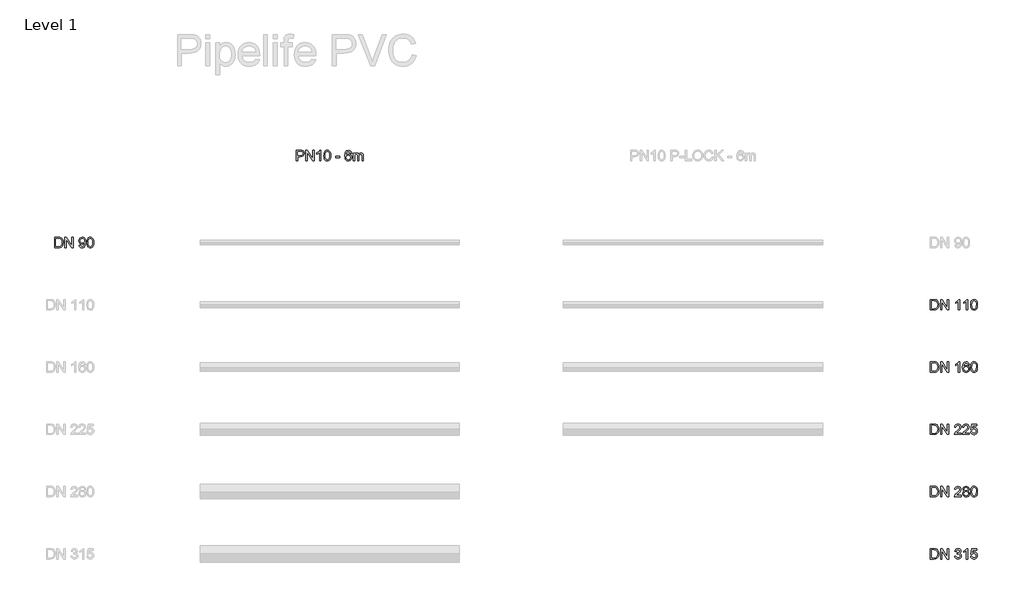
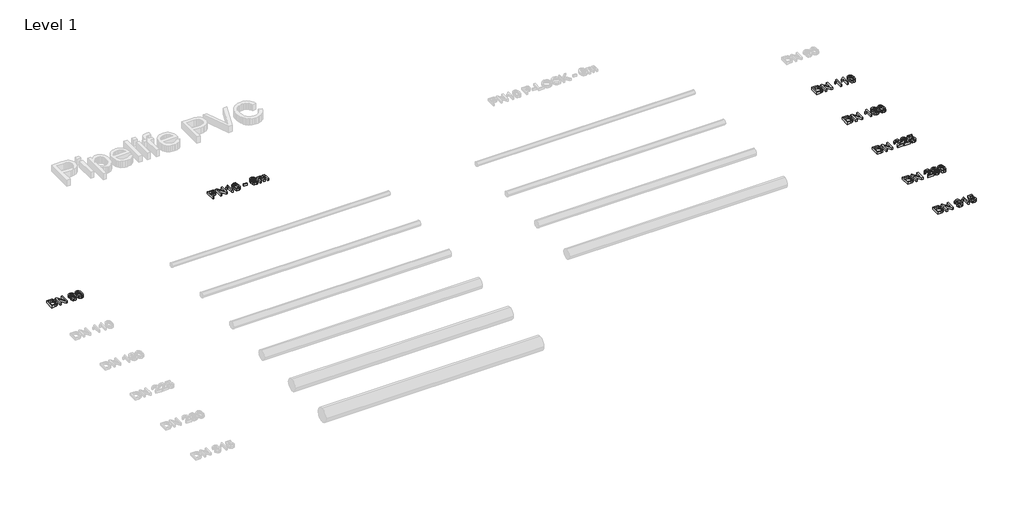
# One storey, part 2 of 3: 7 proxies.
"""IFC4 building model written with IfcOpenShell, lengths in millimetres."""

from ifc_helpers import new_model, si_unit, origin, origin_with_axes, place, context, project, spatial, polyline, outline, extrude, element, save

model = new_model("IFC4")

# Units and contexts
model_context = context("Model", 3, world=origin())
ifc_project = project(units=[si_unit("LENGTHUNIT", "METRE", prefix="MILLI")], contexts=[model_context])

# Site, building, storey
site = spatial("IfcSite", under=ifc_project)
building = spatial("IfcBuilding", under=site)
storey = spatial("IfcBuildingStorey", under=building, Name="Level 1", Elevation=0.0)

# Proxies
placement = place(None, origin())
element("IfcBuildingElementProxy", 1, Name="200mm Arial", ObjectType="200mm Arial", at=placement, inside=storey, context=model_context, shape_type="SweptSolid", body=[
    extrude(outline(polyline([(-14676.2153621, 2161.9491293), (-14676.2153621, 2362.8617496), (-14601.7560463, 2362.8617496), (-14571.7368755, 2360.9487633), (-14547.3340365, 2351.5555097), (-14538.461949, 2343.2291138), (-14531.5151107, 2332.1313403), (-14527.0269503, 2319.0408726), (-14525.5308969, 2304.7363944), (-14529.5714675, 2281.0570566), (-14541.6931792, 2261.326319), (-14551.4006654, 2253.5578775), (-14564.3608415, 2248.0089907), (-14600.0392636, 2243.5698813), (-14651.1012846, 2243.5698813), (-14651.1012846, 2161.9491293), (-14676.2153621, 2161.9491293)]), holes=[polyline([(-14651.1012846, 2268.6839589), (-14598.5677357, 2268.6839589), (-14576.2986122, 2270.9893527), (-14561.5833324, 2277.9055342), (-14553.3795639, 2289.0033077), (-14550.6449744, 2303.8534776), (-14552.2575238, 2315.1351921), (-14557.0951721, 2324.6510731), (-14564.5570452, 2331.8125092), (-14574.0422693, 2336.0308895), (-14599.1563469, 2337.7476721), (-14651.1012846, 2337.7476721), (-14651.1012846, 2268.6839589)])]), origin_with_axes(), (0.0, 0.0, 1.0), 50.0),
    extrude(outline(polyline([(-14490.9990403, 2161.9491293), (-14490.9990403, 2362.8617496), (-14464.1191292, 2362.8617496), (-14359.1501332, 2203.6914731), (-14359.1501332, 2362.8617496), (-14334.0360557, 2362.8617496), (-14334.0360557, 2161.9491293), (-14360.9159668, 2161.9491293), (-14465.8849627, 2321.1684569), (-14465.8849627, 2161.9491293), (-14490.9990403, 2161.9491293)])), origin_with_axes(), (0.0, 0.0, 1.0), 50.0),
    extrude(outline(polyline([(-14205.3264083, 2161.9491293), (-14230.4404858, 2161.9491293), (-14230.4404858, 2318.5197065), (-14254.2301882, 2301.5726092), (-14280.6686409, 2288.8929431), (-14280.6686409, 2312.6335946), (-14243.8559159, 2336.1289913), (-14230.3853035, 2349.7038369), (-14221.5132161, 2362.8617496), (-14205.3264083, 2362.8617496), (-14205.3264083, 2161.9491293)])), origin_with_axes(), (0.0, 0.0, 1.0), 50.0),
    extrude(outline(polyline([(-14145.6804741, 2260.7867587), (-14143.8349328, 2292.9457765), (-14138.2983088, 2318.5932829), (-14129.1257844, 2338.1216855), (-14116.3725419, 2351.9233917), (-14099.9466108, 2360.1271601), (-14079.7560206, 2362.8617496), (-14064.2804513, 2361.2430689), (-14050.4235628, 2356.3870265), (-14038.83528, 2348.483695), (-14030.1655276, 2337.7231466), (-14018.3933038, 2307.9982814), (-14013.8315671, 2260.7867587), (-14015.6587143, 2228.811682), (-14021.140156, 2203.2254892), (-14030.2574981, 2183.6786925), (-14042.9923465, 2169.821804), (-14059.4550658, 2161.5628532), (-14079.7560206, 2158.8098696), (-14105.8511168, 2163.5923356), (-14125.6676936, 2177.9397334), (-14134.4232851, 2193.0688805), (-14140.677279, 2211.919767), (-14145.6804741, 2260.7867587)]), holes=[polyline([(-14120.5663966, 2260.8358096), (-14117.6233406, 2221.3314147), (-14108.7941728, 2198.4675487), (-14095.6485228, 2187.5598476), (-14079.7560206, 2183.9239472), (-14063.8635184, 2187.5721103), (-14050.7178684, 2198.5165997), (-14041.8887006, 2221.3927284), (-14038.9456446, 2260.8358096), (-14041.7905987, 2299.4511564), (-14050.325461, 2322.492832), (-14063.4465855, 2333.9339621), (-14080.0503262, 2337.7476721), (-14095.7711501, 2334.3876832), (-14108.4017653, 2324.3077165), (-14117.5252388, 2299.8313011), (-14120.5663966, 2260.8358096)])]), origin_with_axes(), (0.0, 0.0, 1.0), 50.0),
    extrude(outline(polyline([(-13919.6537763, 2221.5950635), (-13919.6537763, 2246.709141), (-13841.172284, 2246.709141), (-13841.172284, 2221.5950635), (-13919.6537763, 2221.5950635)])), origin_with_axes(), (0.0, 0.0, 1.0), 50.0),
    extrude(outline(polyline([(-13612.0063265, 2309.4943349), (-13637.120404, 2306.3550752), (-13646.6362849, 2327.2998234), (-13658.0283641, 2335.1357099), (-13671.7994134, 2337.7476721), (-13694.4609443, 2331.6653565), (-13703.8971175, 2322.057505), (-13711.6042453, 2308.8321473), (-13716.8097755, 2290.1253478), (-13718.741156, 2264.0731712), (-13708.6673207, 2275.8270009), (-13696.5946599, 2284.1104772), (-13683.1976239, 2289.0217018), (-13669.150663, 2290.6587767), (-13645.9495719, 2286.1828791), (-13626.4763516, 2272.7551863), (-13613.269388, 2252.2396337), (-13608.8670668, 2226.5001568), (-13610.9394687, 2208.5168586), (-13617.1566744, 2191.8456728), (-13627.0036491, 2177.7067415), (-13639.9653581, 2167.3202065), (-13655.4531901, 2160.9374539), (-13672.8785339, 2158.8098696), (-13701.3709945, 2164.4507269), (-13724.0631822, 2181.3732987), (-13732.7222047, 2194.4821604), (-13738.9072207, 2211.2453167), (-13743.8552335, 2255.7345126), (-13738.3615291, 2305.7542013), (-13731.4943985, 2324.8319484), (-13721.8804157, 2339.9549641), (-13711.4601582, 2349.9766828), (-13699.3783003, 2357.1350532), (-13670.2297836, 2362.8617496), (-13648.1936521, 2359.3178198), (-13630.547579, 2348.6860301), (-13618.186744, 2331.8002465), (-13612.0063265, 2309.4943349)]), holes=[polyline([(-13718.741156, 2226.8925642), (-13712.9286205, 2205.1384756), (-13697.4775767, 2189.3440752), (-13674.8405712, 2183.9239472), (-13658.2674874, 2186.7321131), (-13645.2383334, 2195.1566108), (-13636.7954416, 2208.4003626), (-13633.9811443, 2225.6662909), (-13636.7586534, 2242.2393748), (-13645.0911806, 2254.8761213), (-13658.3410638, 2262.8775547), (-13675.8706408, 2265.5446992), (-13692.4191992, 2262.8775547), (-13706.2576936, 2254.8761213), (-13715.6202904, 2242.5459431), (-13718.741156, 2226.8925642)])]), origin_with_axes(), (0.0, 0.0, 1.0), 50.0),
    extrude(outline(polyline([(-13580.6137295, 2161.9491293), (-13580.6137295, 2309.4943349), (-13555.499652, 2309.4943349), (-13555.499652, 2285.2141232), (-13547.9458084, 2296.367079), (-13538.2337237, 2305.1042764), (-13526.6944918, 2310.751265), (-13513.6592064, 2312.6335946), (-13499.6919533, 2310.7144768), (-13488.496078, 2304.9571236), (-13480.1328939, 2295.7416796), (-13474.6637149, 2283.4482896), (-13465.5095846, 2296.2168605), (-13455.0678673, 2305.3372683), (-13443.338563, 2310.809513), (-13430.3216718, 2312.6335946), (-13411.4431941, 2309.5985681), (-13397.4820723, 2300.4934887), (-13388.8552396, 2285.0731018), (-13385.9796286, 2263.0921525), (-13385.9796286, 2161.9491293), (-13411.0937062, 2161.9491293), (-13411.0937062, 2252.3009474), (-13413.4236255, 2273.2702211), (-13421.8603859, 2283.5954424), (-13436.2077837, 2287.519517), (-13449.8132862, 2285.0056567), (-13460.9049283, 2277.4640758), (-13468.2809623, 2264.3797395), (-13470.7396403, 2245.237613), (-13470.7396403, 2161.9491293), (-13495.8537179, 2161.9491293), (-13495.8537179, 2255.0968505), (-13497.3068517, 2269.2970955), (-13501.6662534, 2279.4261131), (-13509.336593, 2285.4961661), (-13520.7225407, 2287.519517), (-13539.3128442, 2282.1239144), (-13546.6704841, 2275.4775131), (-13551.6736793, 2266.3295141), (-13555.499652, 2236.3593942), (-13555.499652, 2161.9491293), (-13580.6137295, 2161.9491293)])), origin_with_axes(), (0.0, 0.0, 1.0), 50.0),
])
element("IfcBuildingElementProxy", 2, Name="200mm Arial", ObjectType="200mm Arial", at=placement, inside=storey, context=model_context, shape_type="SweptSolid", body=[
    extrude(outline(polyline([(-2460.6923074, -1913.949573), (-2460.6923074, -1713.0369527), (-2391.3833395, -1713.0369527), (-2355.5271077, -1715.9309577), (-2339.5119782, -1721.5105013), (-2325.9984462, -1730.302881), (-2312.1047695, -1745.606772), (-2302.2087438, -1764.6385338), (-2296.2858437, -1787.0302846), (-2294.3115437, -1812.4141423), (-2299.6580953, -1852.9547382), (-2313.3923565, -1882.2136195), (-2331.7374053, -1900.436041), (-2355.7478369, -1910.5160077), (-2388.0478761, -1913.949573), (-2460.6923074, -1913.949573)]), holes=[polyline([(-2435.5782298, -1888.8354954), (-2391.1380848, -1888.8354954), (-2358.8135202, -1885.2057264), (-2340.1741658, -1874.9540815), (-2331.4492311, -1864.0831685), (-2324.8948002, -1850.0116822), (-2320.792916, -1832.6783089), (-2319.4256212, -1812.0217348), (-2322.1050284, -1784.6513144), (-2330.14325, -1764.4423301), (-2342.0197071, -1750.5609162), (-2356.2138207, -1742.1732067), (-2391.8247979, -1738.1510302), (-2435.5782298, -1738.1510302), (-2435.5782298, -1888.8354954)])]), origin_with_axes(), (0.0, 0.0, 1.0), 50.0),
    extrude(outline(polyline([(-2259.7796871, -1913.949573), (-2259.7796871, -1713.0369527), (-2232.899776, -1713.0369527), (-2127.93078, -1872.2072292), (-2127.93078, -1713.0369527), (-2102.8167025, -1713.0369527), (-2102.8167025, -1913.949573), (-2129.6966136, -1913.949573), (-2234.6656095, -1754.7302454), (-2234.6656095, -1913.949573), (-2259.7796871, -1913.949573)])), origin_with_axes(), (0.0, 0.0, 1.0), 50.0),
    extrude(outline(polyline([(-1895.6255628, -1913.949573), (-1920.7396403, -1913.949573), (-1920.7396403, -1757.3789958), (-1944.5293427, -1774.3260931), (-1970.9677954, -1787.0057592), (-1970.9677954, -1763.2651077), (-1934.1550704, -1739.769711), (-1920.684458, -1726.1948653), (-1911.8123706, -1713.0369527), (-1895.6255628, -1713.0369527), (-1895.6255628, -1913.949573)])), origin_with_axes(), (0.0, 0.0, 1.0), 50.0),
    extrude(outline(polyline([(-1707.2699812, -1766.4043674), (-1732.3840588, -1769.5436271), (-1741.8999397, -1748.5988789), (-1753.2920188, -1740.7629924), (-1767.0630682, -1738.1510302), (-1789.7245991, -1744.2333458), (-1799.1607723, -1753.8411973), (-1806.8679001, -1767.066555), (-1812.0734303, -1785.7733545), (-1814.0048108, -1811.8255311), (-1803.9309755, -1800.0717013), (-1791.8583147, -1791.7882251), (-1778.4612787, -1786.8770005), (-1764.4143178, -1785.2399256), (-1741.2132267, -1789.7158232), (-1721.7400064, -1803.143516), (-1708.5330428, -1823.6590686), (-1704.1307216, -1849.3985455), (-1706.2031235, -1867.3818437), (-1712.4203292, -1884.0530295), (-1722.2673039, -1898.1919608), (-1735.2290129, -1908.5784958), (-1750.7168449, -1914.9612484), (-1768.1421887, -1917.0888326), (-1796.6346492, -1911.4479754), (-1819.326837, -1894.5254036), (-1827.9858594, -1881.4165418), (-1834.1708755, -1864.6533856), (-1839.1188883, -1820.1641897), (-1833.6251839, -1770.144501), (-1826.7580533, -1751.0667539), (-1817.1440705, -1735.9437382), (-1806.723813, -1725.9220195), (-1794.6419551, -1718.763649), (-1765.4934384, -1713.0369527), (-1743.4573068, -1716.5808825), (-1725.8112338, -1727.2126722), (-1713.4503988, -1744.0984558), (-1707.2699812, -1766.4043674)]), holes=[polyline([(-1814.0048108, -1849.0061381), (-1808.1922753, -1870.7602267), (-1792.7412315, -1886.554627), (-1770.104226, -1891.9747551), (-1753.5311421, -1889.1665892), (-1740.5019881, -1880.7420915), (-1732.0590964, -1867.4983397), (-1729.2447991, -1850.2324114), (-1732.0223082, -1833.6593275), (-1740.3548353, -1821.022581), (-1753.6047185, -1813.0211476), (-1771.1342956, -1810.3540031), (-1787.682854, -1813.0211476), (-1801.5213484, -1821.022581), (-1810.8839452, -1833.3527592), (-1814.0048108, -1849.0061381)])]), origin_with_axes(), (0.0, 0.0, 1.0), 50.0),
    extrude(outline(polyline([(-1682.1559037, -1815.1119436), (-1680.3103624, -1782.9529258), (-1674.7737383, -1757.3054194), (-1665.6012139, -1737.7770168), (-1652.8479714, -1723.9753106), (-1636.4220403, -1715.7715422), (-1616.2314502, -1713.0369527), (-1600.7558809, -1714.6556334), (-1586.8989924, -1719.5116758), (-1575.3107096, -1727.4150073), (-1566.6409572, -1738.1755557), (-1554.8687334, -1767.9004209), (-1550.3069966, -1815.1119436), (-1552.1341439, -1847.0870203), (-1557.6155856, -1872.6732131), (-1566.7329277, -1892.2200098), (-1579.4677761, -1906.0768983), (-1595.9304954, -1914.335849), (-1616.2314502, -1917.0888326), (-1642.3265464, -1912.3063667), (-1662.1431232, -1897.9589689), (-1670.8987147, -1882.8298218), (-1677.1527086, -1863.9789353), (-1682.1559037, -1815.1119436)]), holes=[polyline([(-1657.0418262, -1815.0628927), (-1654.0987702, -1854.5672876), (-1645.2696023, -1877.4311536), (-1632.1239524, -1888.3388547), (-1616.2314502, -1891.9747551), (-1600.338948, -1888.326592), (-1587.193298, -1877.3821026), (-1578.3641301, -1854.5059739), (-1575.4210742, -1815.0628927), (-1578.2660283, -1776.4475459), (-1586.8008906, -1753.4058703), (-1599.9220151, -1741.9647402), (-1616.5257558, -1738.1510302), (-1632.2465797, -1741.5110191), (-1644.8771949, -1751.5909857), (-1654.0006683, -1776.0674012), (-1657.0418262, -1815.0628927)])]), origin_with_axes(), (0.0, 0.0, 1.0), 50.0),
])
element("IfcBuildingElementProxy", 3, Name="200mm Arial", ObjectType="200mm Arial", at=placement, inside=storey, context=model_context, shape_type="SweptSolid", body=[
    extrude(outline(polyline([(-2460.6923074, -3113.949573), (-2460.6923074, -2913.0369527), (-2391.3833395, -2913.0369527), (-2355.5271077, -2915.9309577), (-2339.5119782, -2921.5105013), (-2325.9984462, -2930.302881), (-2312.1047695, -2945.606772), (-2302.2087438, -2964.6385338), (-2296.2858437, -2987.0302846), (-2294.3115437, -3012.4141423), (-2299.6580953, -3052.9547382), (-2313.3923565, -3082.2136195), (-2331.7374053, -3100.436041), (-2355.7478369, -3110.5160077), (-2388.0478761, -3113.949573), (-2460.6923074, -3113.949573)]), holes=[polyline([(-2435.5782298, -3088.8354954), (-2391.1380848, -3088.8354954), (-2358.8135202, -3085.2057264), (-2340.1741658, -3074.9540815), (-2331.4492311, -3064.0831685), (-2324.8948002, -3050.0116822), (-2320.792916, -3032.6783089), (-2319.4256212, -3012.0217348), (-2322.1050284, -2984.6513144), (-2330.14325, -2964.4423301), (-2342.0197071, -2950.5609162), (-2356.2138207, -2942.1732067), (-2391.8247979, -2938.1510302), (-2435.5782298, -2938.1510302), (-2435.5782298, -3088.8354954)])]), origin_with_axes(), (0.0, 0.0, 1.0), 50.0),
    extrude(outline(polyline([(-2259.7796871, -3113.949573), (-2259.7796871, -2913.0369527), (-2232.899776, -2913.0369527), (-2127.93078, -3072.2072292), (-2127.93078, -2913.0369527), (-2102.8167025, -2913.0369527), (-2102.8167025, -3113.949573), (-2129.6966136, -3113.949573), (-2234.6656095, -2954.7302454), (-2234.6656095, -3113.949573), (-2259.7796871, -3113.949573)])), origin_with_axes(), (0.0, 0.0, 1.0), 50.0),
    extrude(outline(polyline([(-1861.0937062, -3088.8354954), (-1861.0937062, -3113.949573), (-1992.9426132, -3113.949573), (-1990.2448119, -3096.6345937), (-1974.9899719, -3069.9754118), (-1943.548324, -3040.8636832), (-1900.1872995, -2999.0232377), (-1892.0571074, -2984.6022634), (-1889.3470434, -2970.5736967), (-1891.9038233, -2957.9982638), (-1899.5741629, -2947.5442838), (-1911.3647808, -2940.4993436), (-1926.2823957, -2938.1510302), (-1941.9480373, -2940.4441613), (-1954.1188, -2947.3235546), (-1961.9730806, -2958.2496499), (-1964.689276, -2972.6828868), (-1989.8033535, -2969.5436271), (-1983.7149065, -2945.2511527), (-1970.5508625, -2927.5069778), (-1950.9979344, -2916.6544589), (-1925.7428355, -2913.0369527), (-1900.3037955, -2917.0591291), (-1880.7876556, -2929.1256586), (-1868.3716383, -2947.1518763), (-1864.2329659, -2969.0531178), (-1868.6966007, -2992.8673456), (-1883.5345079, -3017.4909138), (-1919.513367, -3051.9001431), (-1948.4043664, -3076.0577275), (-1959.7351318, -3088.8354954), (-1861.0937062, -3088.8354954)])), origin_with_axes(), (0.0, 0.0, 1.0), 50.0),
    extrude(outline(polyline([(-1707.2699812, -3088.8354954), (-1707.2699812, -3113.949573), (-1839.1188883, -3113.949573), (-1836.421087, -3096.6345937), (-1821.166247, -3069.9754118), (-1789.7245991, -3040.8636832), (-1746.3635746, -2999.0232377), (-1738.2333825, -2984.6022634), (-1735.5233185, -2970.5736967), (-1738.0800983, -2957.9982638), (-1745.7504379, -2947.5442838), (-1757.5410559, -2940.4993436), (-1772.4586708, -2938.1510302), (-1788.1243124, -2940.4441613), (-1800.2950751, -2947.3235546), (-1808.1493557, -2958.2496499), (-1810.8655511, -2972.6828868), (-1835.9796286, -2969.5436271), (-1829.8911816, -2945.2511527), (-1816.7271375, -2927.5069778), (-1797.1742095, -2916.6544589), (-1771.9191105, -2913.0369527), (-1746.4800706, -2917.0591291), (-1726.9639307, -2929.1256586), (-1714.5479134, -2947.1518763), (-1710.4092409, -2969.0531178), (-1714.8728758, -2992.8673456), (-1729.710783, -3017.4909138), (-1765.6896421, -3051.9001431), (-1794.5806414, -3076.0577275), (-1805.9114069, -3088.8354954), (-1707.2699812, -3088.8354954)])), origin_with_axes(), (0.0, 0.0, 1.0), 50.0),
    extrude(outline(polyline([(-1682.1559037, -3060.5821582), (-1657.0418262, -3057.4428985), (-1652.4310385, -3072.5199289), (-1644.3866855, -3083.3172655), (-1632.9455555, -3089.8103827), (-1618.1444366, -3091.9747551), (-1600.1427443, -3088.9642541), (-1586.6537378, -3079.9327511), (-1578.2292401, -3065.9225785), (-1575.4210742, -3047.9760685), (-1578.0514304, -3031.0780222), (-1585.9424992, -3018.1531014), (-1599.1555942, -3009.9493329), (-1617.7520291, -3007.2147434), (-1639.8004233, -3011.5802764), (-1653.9025665, -3022.9110419), (-1679.016644, -3019.7717822), (-1657.0418262, -2916.1762123), (-1559.7247757, -2916.1762123), (-1559.7247757, -2941.2902899), (-1636.73474, -2941.2902899), (-1647.4768943, -2996.619742), (-1629.5365157, -2985.7304349), (-1610.7377457, -2982.1006659), (-1587.2730058, -2986.601089), (-1567.7936541, -3000.1023582), (-1554.678661, -3020.6792244), (-1550.3069966, -3046.4064386), (-1554.243334, -3071.5205162), (-1566.052346, -3093.0048247), (-1576.487932, -3103.5415782), (-1588.664826, -3111.0678307), (-1602.5830282, -3115.5835821), (-1618.2425384, -3117.0888326), (-1642.9090262, -3113.2199403), (-1662.5600561, -3101.6132634), (-1676.0306685, -3083.6177025), (-1682.1559037, -3060.5821582)])), origin_with_axes(), (0.0, 0.0, 1.0), 50.0),
])
element("IfcBuildingElementProxy", 4, Name="200mm Arial", ObjectType="200mm Arial", at=placement, inside=storey, context=model_context, shape_type="SweptSolid", body=[
    extrude(outline(polyline([(-2460.6923074, -4313.949573), (-2460.6923074, -4113.0369527), (-2391.3833395, -4113.0369527), (-2355.5271077, -4115.9309577), (-2339.5119782, -4121.5105013), (-2325.9984462, -4130.302881), (-2312.1047695, -4145.606772), (-2302.2087438, -4164.6385338), (-2296.2858437, -4187.0302846), (-2294.3115437, -4212.4141423), (-2299.6580953, -4252.9547382), (-2313.3923565, -4282.2136195), (-2331.7374053, -4300.436041), (-2355.7478369, -4310.5160077), (-2388.0478761, -4313.949573), (-2460.6923074, -4313.949573)]), holes=[polyline([(-2435.5782298, -4288.8354954), (-2391.1380848, -4288.8354954), (-2358.8135202, -4285.2057264), (-2340.1741658, -4274.9540815), (-2331.4492311, -4264.0831685), (-2324.8948002, -4250.0116822), (-2320.792916, -4232.6783089), (-2319.4256212, -4212.0217348), (-2322.1050284, -4184.6513144), (-2330.14325, -4164.4423301), (-2342.0197071, -4150.5609162), (-2356.2138207, -4142.1732067), (-2391.8247979, -4138.1510302), (-2435.5782298, -4138.1510302), (-2435.5782298, -4288.8354954)])]), origin_with_axes(), (0.0, 0.0, 1.0), 50.0),
    extrude(outline(polyline([(-2259.7796871, -4313.949573), (-2259.7796871, -4113.0369527), (-2232.899776, -4113.0369527), (-2127.93078, -4272.2072292), (-2127.93078, -4113.0369527), (-2102.8167025, -4113.0369527), (-2102.8167025, -4313.949573), (-2129.6966136, -4313.949573), (-2234.6656095, -4154.7302454), (-2234.6656095, -4313.949573), (-2259.7796871, -4313.949573)])), origin_with_axes(), (0.0, 0.0, 1.0), 50.0),
    extrude(outline(polyline([(-1861.0937062, -4288.8354954), (-1861.0937062, -4313.949573), (-1992.9426132, -4313.949573), (-1990.2448119, -4296.6345937), (-1974.9899719, -4269.9754118), (-1943.548324, -4240.8636832), (-1900.1872995, -4199.0232377), (-1892.0571074, -4184.6022634), (-1889.3470434, -4170.5736967), (-1891.9038233, -4157.9982638), (-1899.5741629, -4147.5442838), (-1911.3647808, -4140.4993436), (-1926.2823957, -4138.1510302), (-1941.9480373, -4140.4441613), (-1954.1188, -4147.3235546), (-1961.9730806, -4158.2496499), (-1964.689276, -4172.6828868), (-1989.8033535, -4169.5436271), (-1983.7149065, -4145.2511527), (-1970.5508625, -4127.5069778), (-1950.9979344, -4116.6544589), (-1925.7428355, -4113.0369527), (-1900.3037955, -4117.0591291), (-1880.7876556, -4129.1256586), (-1868.3716383, -4147.1518763), (-1864.2329659, -4169.0531178), (-1868.6966007, -4192.8673456), (-1883.5345079, -4217.4909138), (-1919.513367, -4251.9001431), (-1948.4043664, -4276.0577275), (-1959.7351318, -4288.8354954), (-1861.0937062, -4288.8354954)])), origin_with_axes(), (0.0, 0.0, 1.0), 50.0),
    extrude(outline(polyline([(-1799.3876328, -4203.2906688), (-1812.8337198, -4196.6687929), (-1822.2698929, -4187.6924722), (-1827.8433052, -4176.5456478), (-1829.7011092, -4163.4122605), (-1825.6544073, -4143.7796247), (-1813.5143015, -4127.5560287), (-1794.6419551, -4116.6667217), (-1770.3985316, -4113.0369527), (-1746.0079553, -4116.7525608), (-1726.8903543, -4127.8993853), (-1714.5295193, -4144.3804986), (-1710.4092409, -4164.0989736), (-1712.2425196, -4176.8092965), (-1717.7423554, -4187.7660486), (-1726.9700621, -4196.687187), (-1739.9869534, -4203.2906688), (-1724.5297782, -4211.255314), (-1713.2787205, -4222.9846183), (-1706.4177213, -4237.9144959), (-1704.1307216, -4255.4808612), (-1708.6679328, -4279.4912927), (-1722.2795667, -4299.332395), (-1743.2978913, -4312.6497232), (-1770.0551751, -4317.0888326), (-1796.8124589, -4312.6313291), (-1817.8307835, -4299.2588186), (-1831.4424174, -4279.227644), (-1835.9796286, -4254.7941481), (-1833.6006584, -4236.5472012), (-1826.4637477, -4221.5376158), (-1814.9367785, -4210.2804267), (-1799.3876328, -4203.2906688)]), holes=[polyline([(-1810.8655511, -4253.9112313), (-1806.6716963, -4272.8203659), (-1800.8652922, -4280.9321639), (-1791.8337892, -4286.97156), (-1769.8589714, -4291.9747551), (-1752.7647213, -4289.3443988), (-1739.9379024, -4281.45333), (-1731.9180749, -4269.5032966), (-1729.2447991, -4254.6960463), (-1732.0039141, -4239.6374099), (-1740.2812589, -4227.4237277), (-1753.4023834, -4219.3303238), (-1770.6928372, -4216.6325225), (-1787.547964, -4219.2935356), (-1800.2460242, -4227.2765749), (-1808.2106694, -4239.2572652), (-1810.8655511, -4253.9112313)]), polyline([(-1804.5870317, -4164.1480245), (-1802.3613456, -4175.110908), (-1795.6842874, -4183.8664995), (-1784.7520608, -4189.6054586), (-1769.7608695, -4191.518445), (-1755.1191661, -4189.6177213), (-1744.3524864, -4183.9155504), (-1737.7306104, -4175.4542645), (-1735.5233185, -4165.276196), (-1737.8041868, -4154.7118513), (-1744.646792, -4145.974654), (-1755.5606245, -4140.1069361), (-1770.0551751, -4138.1510302), (-1784.6416962, -4140.0640166), (-1795.5371346, -4145.8029757), (-1802.3245574, -4154.2152106), (-1804.5870317, -4164.1480245)])]), origin_with_axes(), (0.0, 0.0, 1.0), 50.0),
    extrude(outline(polyline([(-1682.1559037, -4215.1119436), (-1680.3103624, -4182.9529258), (-1674.7737383, -4157.3054194), (-1665.6012139, -4137.7770168), (-1652.8479714, -4123.9753106), (-1636.4220403, -4115.7715422), (-1616.2314502, -4113.0369527), (-1600.7558809, -4114.6556334), (-1586.8989924, -4119.5116758), (-1575.3107096, -4127.4150073), (-1566.6409572, -4138.1755557), (-1554.8687334, -4167.9004209), (-1550.3069966, -4215.1119436), (-1552.1341439, -4247.0870203), (-1557.6155856, -4272.6732131), (-1566.7329277, -4292.2200098), (-1579.4677761, -4306.0768983), (-1595.9304954, -4314.335849), (-1616.2314502, -4317.0888326), (-1642.3265464, -4312.3063667), (-1662.1431232, -4297.9589689), (-1670.8987147, -4282.8298218), (-1677.1527086, -4263.9789353), (-1682.1559037, -4215.1119436)]), holes=[polyline([(-1657.0418262, -4215.0628927), (-1654.0987702, -4254.5672876), (-1645.2696023, -4277.4311536), (-1632.1239524, -4288.3388547), (-1616.2314502, -4291.9747551), (-1600.338948, -4288.326592), (-1587.193298, -4277.3821026), (-1578.3641301, -4254.5059739), (-1575.4210742, -4215.0628927), (-1578.2660283, -4176.4475459), (-1586.8008906, -4153.4058703), (-1599.9220151, -4141.9647402), (-1616.5257558, -4138.1510302), (-1632.2465797, -4141.5110191), (-1644.8771949, -4151.5909857), (-1654.0006683, -4176.0674012), (-1657.0418262, -4215.0628927)])]), origin_with_axes(), (0.0, 0.0, 1.0), 50.0),
])
element("IfcBuildingElementProxy", 5, Name="200mm Arial", ObjectType="200mm Arial", at=placement, inside=storey, context=model_context, shape_type="SweptSolid", body=[
    extrude(outline(polyline([(-2460.6923074, -5513.949573), (-2460.6923074, -5313.0369527), (-2391.3833395, -5313.0369527), (-2355.5271077, -5315.9309577), (-2339.5119782, -5321.5105013), (-2325.9984462, -5330.302881), (-2312.1047695, -5345.606772), (-2302.2087438, -5364.6385338), (-2296.2858437, -5387.0302846), (-2294.3115437, -5412.4141423), (-2299.6580953, -5452.9547382), (-2313.3923565, -5482.2136195), (-2331.7374053, -5500.436041), (-2355.7478369, -5510.5160077), (-2388.0478761, -5513.949573), (-2460.6923074, -5513.949573)]), holes=[polyline([(-2435.5782298, -5488.8354954), (-2391.1380848, -5488.8354954), (-2358.8135202, -5485.2057264), (-2340.1741658, -5474.9540815), (-2331.4492311, -5464.0831685), (-2324.8948002, -5450.0116822), (-2320.792916, -5432.6783089), (-2319.4256212, -5412.0217348), (-2322.1050284, -5384.6513144), (-2330.14325, -5364.4423301), (-2342.0197071, -5350.5609162), (-2356.2138207, -5342.1732067), (-2391.8247979, -5338.1510302), (-2435.5782298, -5338.1510302), (-2435.5782298, -5488.8354954)])]), origin_with_axes(), (0.0, 0.0, 1.0), 50.0),
    extrude(outline(polyline([(-2259.7796871, -5513.949573), (-2259.7796871, -5313.0369527), (-2232.899776, -5313.0369527), (-2127.93078, -5472.2072292), (-2127.93078, -5313.0369527), (-2102.8167025, -5313.0369527), (-2102.8167025, -5513.949573), (-2129.6966136, -5513.949573), (-2234.6656095, -5354.7302454), (-2234.6656095, -5513.949573), (-2259.7796871, -5513.949573)])), origin_with_axes(), (0.0, 0.0, 1.0), 50.0),
    extrude(outline(polyline([(-1989.8033535, -5460.5821582), (-1964.689276, -5457.4428985), (-1959.0668128, -5473.2250361), (-1950.8323875, -5483.8813512), (-1939.5813298, -5489.9514041), (-1924.9089696, -5491.9747551), (-1907.6920922, -5489.1911147), (-1894.3992895, -5480.8401934), (-1885.9012154, -5468.3812565), (-1883.068524, -5453.2735692), (-1885.8766899, -5438.9323028), (-1894.3011876, -5427.3011004), (-1907.0544301, -5419.5939726), (-1922.8488304, -5417.02493), (-1940.4581153, -5419.7717822), (-1937.6622121, -5394.6577047), (-1933.6400356, -5394.9520102), (-1918.593662, -5393.1493885), (-1905.1414437, -5387.7415231), (-1895.6500882, -5378.5935242), (-1892.4863031, -5365.5705016), (-1894.7794342, -5354.7241141), (-1901.6588275, -5345.925603), (-1912.1557271, -5340.0946734), (-1925.3013771, -5338.1510302), (-1938.4715525, -5340.1130675), (-1949.2382322, -5345.9991794), (-1957.0986442, -5355.809366), (-1961.5500163, -5369.5436271), (-1986.6640939, -5366.4043674), (-1979.2696657, -5343.8532011), (-1966.1117531, -5327.0164685), (-1948.1100608, -5316.5318316), (-1926.1842938, -5313.0369527), (-1910.3960249, -5314.7598667), (-1895.8953429, -5319.9286087), (-1883.6693979, -5328.0833263), (-1874.70534, -5338.7641669), (-1869.2055042, -5351.0698196), (-1867.3722255, -5364.0989736), (-1869.1135337, -5376.2390794), (-1874.337458, -5387.2510138), (-1882.9704221, -5396.6320047), (-1894.9388497, -5403.87928), (-1879.2180258, -5410.2313758), (-1867.5684293, -5421.0471064), (-1860.3579422, -5435.7378608), (-1857.9544465, -5453.7150276), (-1862.7614379, -5478.191443), (-1877.1824121, -5498.645682), (-1898.9487635, -5512.478045), (-1925.7918864, -5517.0888326), (-1950.0720981, -5513.1524953), (-1969.8396239, -5501.3434833), (-1983.5861478, -5483.2804773), (-1989.8033535, -5460.5821582)])), origin_with_axes(), (0.0, 0.0, 1.0), 50.0),
    extrude(outline(polyline([(-1741.8018379, -5513.949573), (-1766.9159154, -5513.949573), (-1766.9159154, -5357.3789958), (-1790.7056178, -5374.3260931), (-1817.1440705, -5387.0057592), (-1817.1440705, -5363.2651077), (-1780.3313455, -5339.769711), (-1766.8607331, -5326.1948653), (-1757.9886457, -5313.0369527), (-1741.8018379, -5313.0369527), (-1741.8018379, -5513.949573)])), origin_with_axes(), (0.0, 0.0, 1.0), 50.0),
    extrude(outline(polyline([(-1682.1559037, -5460.5821582), (-1657.0418262, -5457.4428985), (-1652.4310385, -5472.5199289), (-1644.3866855, -5483.3172655), (-1632.9455555, -5489.8103827), (-1618.1444366, -5491.9747551), (-1600.1427443, -5488.9642541), (-1586.6537378, -5479.9327511), (-1578.2292401, -5465.9225785), (-1575.4210742, -5447.9760685), (-1578.0514304, -5431.0780222), (-1585.9424992, -5418.1531014), (-1599.1555942, -5409.9493329), (-1617.7520291, -5407.2147434), (-1639.8004233, -5411.5802764), (-1653.9025665, -5422.9110419), (-1679.016644, -5419.7717822), (-1657.0418262, -5316.1762123), (-1559.7247757, -5316.1762123), (-1559.7247757, -5341.2902899), (-1636.73474, -5341.2902899), (-1647.4768943, -5396.619742), (-1629.5365157, -5385.7304349), (-1610.7377457, -5382.1006659), (-1587.2730058, -5386.601089), (-1567.7936541, -5400.1023582), (-1554.678661, -5420.6792244), (-1550.3069966, -5446.4064386), (-1554.243334, -5471.5205162), (-1566.052346, -5493.0048247), (-1576.487932, -5503.5415782), (-1588.664826, -5511.0678307), (-1602.5830282, -5515.5835821), (-1618.2425384, -5517.0888326), (-1642.9090262, -5513.2199403), (-1662.5600561, -5501.6132634), (-1676.0306685, -5483.6177025), (-1682.1559037, -5460.5821582)])), origin_with_axes(), (0.0, 0.0, 1.0), 50.0),
])
element("IfcBuildingElementProxy", 6, Name="200mm Arial", ObjectType="200mm Arial", at=placement, inside=storey, context=model_context, shape_type="SweptSolid", body=[
    extrude(outline(polyline([(-19337.4878779, 486.050427), (-19337.4878779, 686.9630473), (-19268.17891, 686.9630473), (-19232.3226782, 684.0690423), (-19216.3075487, 678.4894987), (-19202.7940167, 669.697119), (-19188.90034, 654.393228), (-19179.0043144, 635.3614662), (-19173.0814143, 612.9697154), (-19171.1071142, 587.5858577), (-19176.4536659, 547.0452618), (-19190.187927, 517.7863805), (-19208.5329759, 499.563959), (-19232.5434074, 489.4839923), (-19264.8434466, 486.050427), (-19337.4878779, 486.050427)]), holes=[polyline([(-19312.3738004, 511.1645046), (-19267.9336553, 511.1645046), (-19235.6090907, 514.7942736), (-19216.9697363, 525.0459185), (-19208.2448016, 535.9168315), (-19201.6903707, 549.9883178), (-19197.5884865, 567.3216911), (-19196.2211917, 587.9782652), (-19198.9005989, 615.3486856), (-19206.9388205, 635.5576699), (-19218.8152776, 649.4390838), (-19233.0093913, 657.8267933), (-19268.6203684, 661.8489698), (-19312.3738004, 661.8489698), (-19312.3738004, 511.1645046)])]), origin_with_axes(), (0.0, 0.0, 1.0), 50.0),
    extrude(outline(polyline([(-19136.5752576, 486.050427), (-19136.5752576, 686.9630473), (-19109.6953465, 686.9630473), (-19004.7263505, 527.7927708), (-19004.7263505, 686.9630473), (-18979.612273, 686.9630473), (-18979.612273, 486.050427), (-19006.4921841, 486.050427), (-19111.4611801, 645.2697546), (-19111.4611801, 486.050427), (-19136.5752576, 486.050427)])), origin_with_axes(), (0.0, 0.0, 1.0), 50.0),
    extrude(outline(polyline([(-18863.4596644, 536.2785821), (-18838.3455868, 539.4178418), (-18834.0536302, 525.1624145), (-18827.0638723, 515.4564612), (-18817.5479914, 509.883049), (-18805.6776657, 508.0252449), (-18785.3460541, 512.8077108), (-18771.562742, 525.5854788), (-18763.3467108, 547.4131438), (-18759.7169417, 576.5493979), (-18759.8640945, 581.4544911), (-18768.5645037, 570.8349642), (-18779.9504515, 562.4227292), (-18793.2003347, 556.9412875), (-18807.4925502, 555.1141403), (-18830.3932044, 559.5777751), (-18849.4556231, 572.9686798), (-18862.3130988, 593.6559106), (-18866.5989241, 620.0085242), (-18862.1046324, 647.2317919), (-18848.6217572, 668.5689476), (-18828.3698534, 682.3645224), (-18803.5684756, 686.9630473), (-18784.8371506, 684.3388224), (-18767.7858202, 676.4661477), (-18753.5242615, 663.7374307), (-18743.162252, 646.5450788), (-18736.8530757, 622.7799019), (-18734.750017, 590.3327099), (-18736.8469444, 555.929612), (-18743.1377265, 529.3378751), (-18753.5671811, 509.3557514), (-18768.0801258, 494.7814931), (-18786.0511612, 485.8787488), (-18806.8548881, 482.9111674), (-18828.3269338, 486.4121777), (-18845.4579721, 496.9152086), (-18857.4386624, 513.7580726), (-18863.4596644, 536.2785821)]), holes=[polyline([(-18759.8640945, 620.5971354), (-18762.5741586, 637.6178091), (-18770.7043507, 650.7144081), (-18783.3227031, 659.0653294), (-18799.4972481, 661.8489698), (-18816.2726671, 658.8507315), (-18829.7126227, 649.8560168), (-18838.5417906, 636.0910988), (-18841.4848465, 618.7822509), (-18838.7012061, 603.2637621), (-18830.3502848, 590.9458466), (-18817.241423, 582.907625), (-18800.1839612, 580.2282178), (-18784.1381749, 582.907625), (-18771.2193855, 590.9458466), (-18762.7029173, 603.7174832), (-18759.8640945, 620.5971354)])]), origin_with_axes(), (0.0, 0.0, 1.0), 50.0),
    extrude(outline(polyline([(-18712.7751992, 584.8880564), (-18710.9296578, 617.0470742), (-18705.3930338, 642.6945806), (-18696.2205094, 662.2229832), (-18683.4672669, 676.0246894), (-18667.0413358, 684.2284578), (-18646.8507456, 686.9630473), (-18631.3751764, 685.3443666), (-18617.5182879, 680.4883242), (-18605.930005, 672.5849927), (-18597.2602527, 661.8244443), (-18585.4880288, 632.0995791), (-18580.9262921, 584.8880564), (-18582.7534393, 552.9129797), (-18588.2348811, 527.3267869), (-18597.3522232, 507.7799902), (-18610.0870716, 493.9231017), (-18626.5497909, 485.664151), (-18646.8507456, 482.9111674), (-18672.9458418, 487.6936333), (-18692.7624186, 502.0410311), (-18701.5180101, 517.1701782), (-18707.772004, 536.0210647), (-18712.7751992, 584.8880564)]), holes=[polyline([(-18687.6611216, 584.9371073), (-18684.7180657, 545.4327124), (-18675.8888978, 522.5688464), (-18662.7432478, 511.6611453), (-18646.8507456, 508.0252449), (-18630.9582434, 511.673408), (-18617.8125935, 522.6178974), (-18608.9834256, 545.4940261), (-18606.0403696, 584.9371073), (-18608.8853237, 623.5524541), (-18617.420186, 646.5941297), (-18630.5413105, 658.0352598), (-18647.1450512, 661.8489698), (-18662.8658751, 658.4889809), (-18675.4964903, 648.4090143), (-18684.6199638, 623.9325988), (-18687.6611216, 584.9371073)])]), origin_with_axes(), (0.0, 0.0, 1.0), 50.0),
])
element("IfcBuildingElementProxy", 7, Name="200mm Arial", ObjectType="200mm Arial", at=placement, inside=storey, context=model_context, shape_type="SweptSolid", body=[
    extrude(outline(polyline([(-2460.6923074, -713.949573), (-2460.6923074, -513.0369527), (-2391.3833395, -513.0369527), (-2355.5271077, -515.9309577), (-2339.5119782, -521.5105013), (-2325.9984462, -530.302881), (-2312.1047695, -545.606772), (-2302.2087438, -564.6385338), (-2296.2858437, -587.0302846), (-2294.3115437, -612.4141423), (-2299.6580953, -652.9547382), (-2313.3923565, -682.2136195), (-2331.7374053, -700.436041), (-2355.7478369, -710.5160077), (-2388.0478761, -713.949573), (-2460.6923074, -713.949573)]), holes=[polyline([(-2435.5782298, -688.8354954), (-2391.1380848, -688.8354954), (-2358.8135202, -685.2057264), (-2340.1741658, -674.9540815), (-2331.4492311, -664.0831685), (-2324.8948002, -650.0116822), (-2320.792916, -632.6783089), (-2319.4256212, -612.0217348), (-2322.1050284, -584.6513144), (-2330.14325, -564.4423301), (-2342.0197071, -550.5609162), (-2356.2138207, -542.1732067), (-2391.8247979, -538.1510302), (-2435.5782298, -538.1510302), (-2435.5782298, -688.8354954)])]), origin_with_axes(), (0.0, 0.0, 1.0), 50.0),
    extrude(outline(polyline([(-2259.7796871, -713.949573), (-2259.7796871, -513.0369527), (-2232.899776, -513.0369527), (-2127.93078, -672.2072292), (-2127.93078, -513.0369527), (-2102.8167025, -513.0369527), (-2102.8167025, -713.949573), (-2129.6966136, -713.949573), (-2234.6656095, -554.7302454), (-2234.6656095, -713.949573), (-2259.7796871, -713.949573)])), origin_with_axes(), (0.0, 0.0, 1.0), 50.0),
    extrude(outline(polyline([(-1895.6255628, -713.949573), (-1920.7396403, -713.949573), (-1920.7396403, -557.3789958), (-1944.5293427, -574.3260931), (-1970.9677954, -587.0057592), (-1970.9677954, -563.2651077), (-1934.1550704, -539.769711), (-1920.684458, -526.1948653), (-1911.8123706, -513.0369527), (-1895.6255628, -513.0369527), (-1895.6255628, -713.949573)])), origin_with_axes(), (0.0, 0.0, 1.0), 50.0),
    extrude(outline(polyline([(-1741.8018379, -713.949573), (-1766.9159154, -713.949573), (-1766.9159154, -557.3789958), (-1790.7056178, -574.3260931), (-1817.1440705, -587.0057592), (-1817.1440705, -563.2651077), (-1780.3313455, -539.769711), (-1766.8607331, -526.1948653), (-1757.9886457, -513.0369527), (-1741.8018379, -513.0369527), (-1741.8018379, -713.949573)])), origin_with_axes(), (0.0, 0.0, 1.0), 50.0),
    extrude(outline(polyline([(-1682.1559037, -615.1119436), (-1680.3103624, -582.9529258), (-1674.7737383, -557.3054194), (-1665.6012139, -537.7770168), (-1652.8479714, -523.9753106), (-1636.4220403, -515.7715422), (-1616.2314502, -513.0369527), (-1600.7558809, -514.6556334), (-1586.8989924, -519.5116758), (-1575.3107096, -527.4150073), (-1566.6409572, -538.1755557), (-1554.8687334, -567.9004209), (-1550.3069966, -615.1119436), (-1552.1341439, -647.0870203), (-1557.6155856, -672.6732131), (-1566.7329277, -692.2200098), (-1579.4677761, -706.0768983), (-1595.9304954, -714.335849), (-1616.2314502, -717.0888326), (-1642.3265464, -712.3063667), (-1662.1431232, -697.9589689), (-1670.8987147, -682.8298218), (-1677.1527086, -663.9789353), (-1682.1559037, -615.1119436)]), holes=[polyline([(-1657.0418262, -615.0628927), (-1654.0987702, -654.5672876), (-1645.2696023, -677.4311536), (-1632.1239524, -688.3388547), (-1616.2314502, -691.9747551), (-1600.338948, -688.326592), (-1587.193298, -677.3821026), (-1578.3641301, -654.5059739), (-1575.4210742, -615.0628927), (-1578.2660283, -576.4475459), (-1586.8008906, -553.4058703), (-1599.9220151, -541.9647402), (-1616.5257558, -538.1510302), (-1632.2465797, -541.5110191), (-1644.8771949, -551.5909857), (-1654.0006683, -576.0674012), (-1657.0418262, -615.0628927)])]), origin_with_axes(), (0.0, 0.0, 1.0), 50.0),
])

save(model, "model.ifc")
